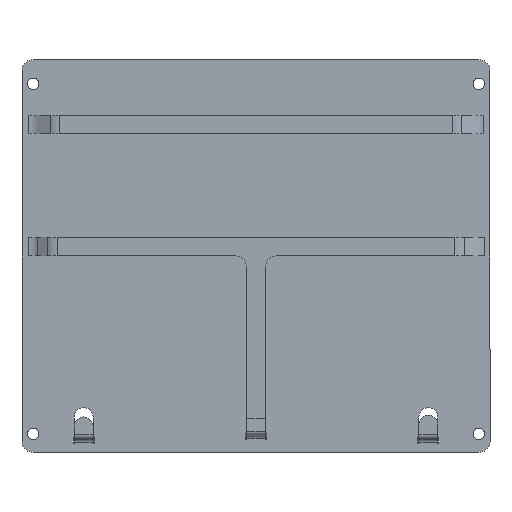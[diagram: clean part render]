
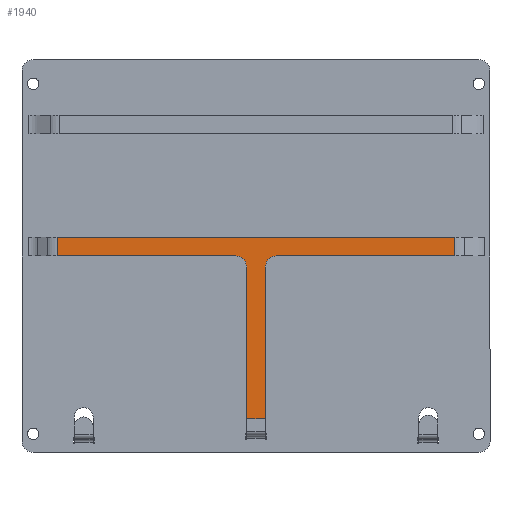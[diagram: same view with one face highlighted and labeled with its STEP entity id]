
A CAD part, top view. The second image highlights one B-rep face of the part: STEP entity #1940.
In plain terms, the highlighted planar face has unit normal (0, 0, 1).
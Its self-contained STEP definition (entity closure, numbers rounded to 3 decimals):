
#24 = VERTEX_POINT ( 'NONE', #3304 ) ;
#105 = VERTEX_POINT ( 'NONE', #1539 ) ;
#113 = LINE ( 'NONE', #3765, #2462 ) ;
#159 = LINE ( 'NONE', #3003, #2187 ) ;
#403 = DIRECTION ( 'NONE',  ( -1., 0., 0. ) ) ;
#493 = AXIS2_PLACEMENT_3D ( 'NONE', #2784, #3857, #4172 ) ;
#503 = DIRECTION ( 'NONE',  ( 1., 0., 0. ) ) ;
#575 = CARTESIAN_POINT ( 'NONE',  ( 109., 10., 6. ) ) ;
#689 = VERTEX_POINT ( 'NONE', #1268 ) ;
#747 = EDGE_CURVE ( 'NONE', #689, #1321, #3238, .T. ) ;
#824 = EDGE_LOOP ( 'NONE', ( #2567, #1544, #4188, #962, #1581, #1281, #1515, #3862, #1918, #2360 ) ) ;
#950 = CARTESIAN_POINT ( 'NONE',  ( -5., -6., 6. ) ) ;
#953 = VERTEX_POINT ( 'NONE', #1781 ) ;
#962 = ORIENTED_EDGE ( 'NONE', *, *, #1213, .T. ) ;
#984 = LINE ( 'NONE', #2726, #3757 ) ;
#992 = DIRECTION ( 'NONE',  ( 1., 0., 0. ) ) ;
#1030 = DIRECTION ( 'NONE',  ( 0., -1., 0. ) ) ;
#1055 = EDGE_CURVE ( 'NONE', #24, #4297, #113, .T. ) ;
#1100 = AXIS2_PLACEMENT_3D ( 'NONE', #2276, #4446, #503 ) ;
#1106 = CARTESIAN_POINT ( 'NONE',  ( -11., -6., 6. ) ) ;
#1154 = CARTESIAN_POINT ( 'NONE',  ( 106.264, 0., 6. ) ) ;
#1213 = EDGE_CURVE ( 'NONE', #4042, #953, #2386, .T. ) ;
#1268 = CARTESIAN_POINT ( 'NONE',  ( -11., 0., 6. ) ) ;
#1281 = ORIENTED_EDGE ( 'NONE', *, *, #747, .T. ) ;
#1293 = CARTESIAN_POINT ( 'NONE',  ( 5., -6., 6. ) ) ;
#1302 = VERTEX_POINT ( 'NONE', #1154 ) ;
#1321 = VERTEX_POINT ( 'NONE', #4584 ) ;
#1515 = ORIENTED_EDGE ( 'NONE', *, *, #3314, .T. ) ;
#1539 = CARTESIAN_POINT ( 'NONE',  ( 106.264, 10., 6. ) ) ;
#1544 = ORIENTED_EDGE ( 'NONE', *, *, #3136, .T. ) ;
#1546 = VERTEX_POINT ( 'NONE', #4118 ) ;
#1581 = ORIENTED_EDGE ( 'NONE', *, *, #1623, .T. ) ;
#1623 = EDGE_CURVE ( 'NONE', #953, #689, #3992, .T. ) ;
#1689 = CARTESIAN_POINT ( 'NONE',  ( 11., 0., 6. ) ) ;
#1715 = LINE ( 'NONE', #2148, #1770 ) ;
#1770 = VECTOR ( 'NONE', #992, 1000. ) ;
#1781 = CARTESIAN_POINT ( 'NONE',  ( -106.23, 0., 6. ) ) ;
#1800 = PLANE ( 'NONE',  #1925 ) ;
#1918 = ORIENTED_EDGE ( 'NONE', *, *, #1055, .T. ) ;
#1925 = AXIS2_PLACEMENT_3D ( 'NONE', #1106, #4315, #403 ) ;
#1940 = ADVANCED_FACE ( 'NONE', ( #2209 ), #1800, .F. ) ;
#2049 = EDGE_CURVE ( 'NONE', #4297, #3290, #3708, .T. ) ;
#2090 = DIRECTION ( 'NONE',  ( 1., 0., 0. ) ) ;
#2148 = CARTESIAN_POINT ( 'NONE',  ( 11., 0., 6. ) ) ;
#2187 = VECTOR ( 'NONE', #3308, 1000. ) ;
#2209 = FACE_OUTER_BOUND ( 'NONE', #824, .T. ) ;
#2276 = CARTESIAN_POINT ( 'NONE',  ( 11., -6., 6. ) ) ;
#2360 = ORIENTED_EDGE ( 'NONE', *, *, #2049, .T. ) ;
#2386 = LINE ( 'NONE', #3827, #3109 ) ;
#2395 = EDGE_CURVE ( 'NONE', #3290, #1302, #1715, .T. ) ;
#2462 = VECTOR ( 'NONE', #4428, 1000. ) ;
#2567 = ORIENTED_EDGE ( 'NONE', *, *, #2395, .T. ) ;
#2676 = CARTESIAN_POINT ( 'NONE',  ( -106.23, 10., 6. ) ) ;
#2687 = DIRECTION ( 'NONE',  ( -1., 0., 0. ) ) ;
#2726 = CARTESIAN_POINT ( 'NONE',  ( -5., -87., 6. ) ) ;
#2784 = CARTESIAN_POINT ( 'NONE',  ( -11., -6., 6. ) ) ;
#2946 = CARTESIAN_POINT ( 'NONE',  ( -109., 0., 6. ) ) ;
#2985 = LINE ( 'NONE', #575, #4177 ) ;
#3003 = CARTESIAN_POINT ( 'NONE',  ( 106.264, -6., 6. ) ) ;
#3035 = VECTOR ( 'NONE', #3361, 1000. ) ;
#3109 = VECTOR ( 'NONE', #4532, 1000. ) ;
#3136 = EDGE_CURVE ( 'NONE', #1302, #105, #159, .T. ) ;
#3188 = EDGE_CURVE ( 'NONE', #105, #4042, #2985, .T. ) ;
#3238 = CIRCLE ( 'NONE', #493, 6. ) ;
#3290 = VERTEX_POINT ( 'NONE', #1689 ) ;
#3298 = EDGE_CURVE ( 'NONE', #1546, #24, #984, .T. ) ;
#3304 = CARTESIAN_POINT ( 'NONE',  ( 5., -87., 6. ) ) ;
#3308 = DIRECTION ( 'NONE',  ( 0., 1., 0. ) ) ;
#3314 = EDGE_CURVE ( 'NONE', #1321, #1546, #4520, .T. ) ;
#3361 = DIRECTION ( 'NONE',  ( 1., 0., 0. ) ) ;
#3708 = CIRCLE ( 'NONE', #1100, 6. ) ;
#3757 = VECTOR ( 'NONE', #2090, 1000. ) ;
#3765 = CARTESIAN_POINT ( 'NONE',  ( 5., -87., 6. ) ) ;
#3827 = CARTESIAN_POINT ( 'NONE',  ( -106.23, -6., 6. ) ) ;
#3857 = DIRECTION ( 'NONE',  ( 0., 0., -1. ) ) ;
#3862 = ORIENTED_EDGE ( 'NONE', *, *, #3298, .T. ) ;
#3992 = LINE ( 'NONE', #2946, #3035 ) ;
#4042 = VERTEX_POINT ( 'NONE', #2676 ) ;
#4118 = CARTESIAN_POINT ( 'NONE',  ( -5., -87., 6. ) ) ;
#4172 = DIRECTION ( 'NONE',  ( -1., 0., 0. ) ) ;
#4177 = VECTOR ( 'NONE', #2687, 1000. ) ;
#4188 = ORIENTED_EDGE ( 'NONE', *, *, #3188, .T. ) ;
#4297 = VERTEX_POINT ( 'NONE', #1293 ) ;
#4315 = DIRECTION ( 'NONE',  ( 0., 0., -1. ) ) ;
#4416 = VECTOR ( 'NONE', #1030, 1000. ) ;
#4428 = DIRECTION ( 'NONE',  ( 0., 1., 0. ) ) ;
#4446 = DIRECTION ( 'NONE',  ( 0., 0., -1. ) ) ;
#4520 = LINE ( 'NONE', #950, #4416 ) ;
#4532 = DIRECTION ( 'NONE',  ( 0., -1., 0. ) ) ;
#4584 = CARTESIAN_POINT ( 'NONE',  ( -5., -6., 6. ) ) ;
